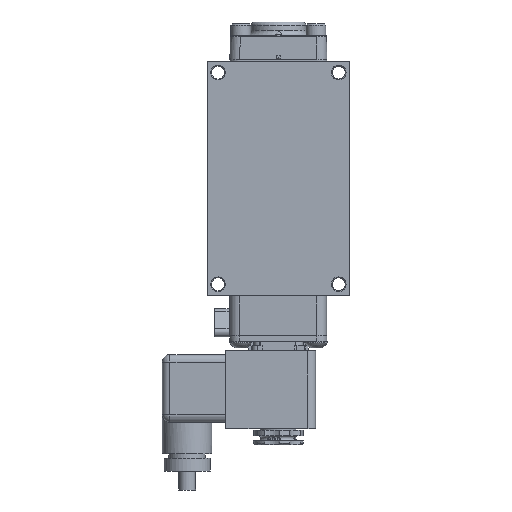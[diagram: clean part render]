
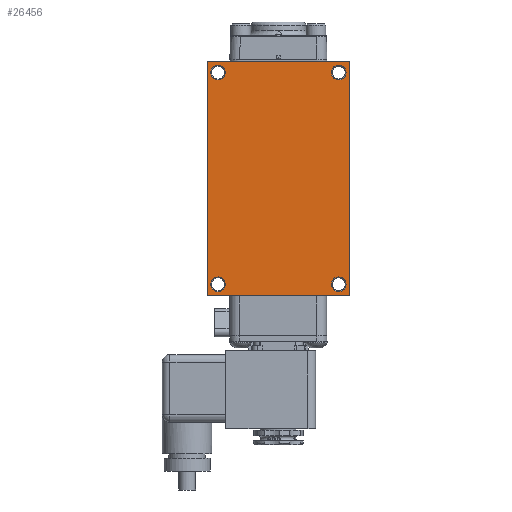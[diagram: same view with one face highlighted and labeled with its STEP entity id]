
A CAD part, front view. The second image highlights one B-rep face of the part: STEP entity #26456.
In plain terms, the highlighted planar face has unit normal (0, -1, 0).
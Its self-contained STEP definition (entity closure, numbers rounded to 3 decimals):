
#1449=LINE('',#46190,#3212);
#1450=LINE('',#46192,#3213);
#1451=LINE('',#46194,#3214);
#1452=LINE('',#46195,#3215);
#3212=VECTOR('',#35102,9.421);
#3213=VECTOR('',#35103,5.715);
#3214=VECTOR('',#35104,9.421);
#3215=VECTOR('',#35105,5.715);
#5012=PLANE('',#29079);
#5588=FACE_BOUND('',#8710,.T.);
#5589=FACE_BOUND('',#8711,.T.);
#5590=FACE_BOUND('',#8712,.T.);
#5591=FACE_BOUND('',#8713,.T.);
#6822=FACE_OUTER_BOUND('',#8709,.T.);
#8709=EDGE_LOOP('',(#21246,#21247,#21248,#21249));
#8710=EDGE_LOOP('',(#21250));
#8711=EDGE_LOOP('',(#21251));
#8712=EDGE_LOOP('',(#21252));
#8713=EDGE_LOOP('',(#21253));
#10361=CIRCLE('',#29068,0.296);
#10363=CIRCLE('',#29072,0.296);
#10365=CIRCLE('',#29076,0.296);
#10367=CIRCLE('',#29080,0.296);
#12255=VERTEX_POINT('',#46170);
#12257=VERTEX_POINT('',#46176);
#12259=VERTEX_POINT('',#46182);
#12261=VERTEX_POINT('',#46188);
#12262=VERTEX_POINT('',#46189);
#12263=VERTEX_POINT('',#46191);
#12264=VERTEX_POINT('',#46193);
#12265=VERTEX_POINT('',#46196);
#15419=EDGE_CURVE('',#12255,#12255,#10361,.T.);
#15421=EDGE_CURVE('',#12257,#12257,#10363,.T.);
#15423=EDGE_CURVE('',#12259,#12259,#10365,.T.);
#15425=EDGE_CURVE('',#12261,#12262,#1449,.T.);
#15426=EDGE_CURVE('',#12263,#12261,#1450,.T.);
#15427=EDGE_CURVE('',#12264,#12263,#1451,.T.);
#15428=EDGE_CURVE('',#12262,#12264,#1452,.T.);
#15429=EDGE_CURVE('',#12265,#12265,#10367,.T.);
#21246=ORIENTED_EDGE('',*,*,#15425,.F.);
#21247=ORIENTED_EDGE('',*,*,#15426,.F.);
#21248=ORIENTED_EDGE('',*,*,#15427,.F.);
#21249=ORIENTED_EDGE('',*,*,#15428,.F.);
#21250=ORIENTED_EDGE('',*,*,#15423,.F.);
#21251=ORIENTED_EDGE('',*,*,#15419,.F.);
#21252=ORIENTED_EDGE('',*,*,#15421,.F.);
#21253=ORIENTED_EDGE('',*,*,#15429,.F.);
#26456=ADVANCED_FACE('',(#6822,#5588,#5589,#5590,#5591),#5012,.F.);
#29068=AXIS2_PLACEMENT_3D('',#46171,#35078,#35079);
#29072=AXIS2_PLACEMENT_3D('',#46177,#35086,#35087);
#29076=AXIS2_PLACEMENT_3D('',#46183,#35094,#35095);
#29079=AXIS2_PLACEMENT_3D('',#46187,#35100,#35101);
#29080=AXIS2_PLACEMENT_3D('',#46197,#35106,#35107);
#35078=DIRECTION('center_axis',(0.,-1.,0.));
#35079=DIRECTION('ref_axis',(1.,0.,0.));
#35086=DIRECTION('center_axis',(0.,-1.,0.));
#35087=DIRECTION('ref_axis',(1.,0.,0.));
#35094=DIRECTION('center_axis',(0.,-1.,0.));
#35095=DIRECTION('ref_axis',(1.,0.,0.));
#35100=DIRECTION('center_axis',(0.,1.,0.));
#35101=DIRECTION('ref_axis',(0.,0.,1.));
#35102=DIRECTION('',(0.,0.,-1.));
#35103=DIRECTION('',(1.,0.,0.));
#35104=DIRECTION('',(0.,0.,1.));
#35105=DIRECTION('',(-1.,0.,0.));
#35106=DIRECTION('center_axis',(0.,-1.,0.));
#35107=DIRECTION('ref_axis',(1.,0.,0.));
#46170=CARTESIAN_POINT('',(2.125,-1.636,-4.247));
#46171=CARTESIAN_POINT('Origin',(2.421,-1.636,-4.247));
#46176=CARTESIAN_POINT('',(-2.717,-1.636,-4.247));
#46177=CARTESIAN_POINT('Origin',(-2.421,-1.636,-4.247));
#46182=CARTESIAN_POINT('',(-2.717,-1.636,4.247));
#46183=CARTESIAN_POINT('Origin',(-2.421,-1.636,4.247));
#46187=CARTESIAN_POINT('Origin',(0.,-1.636,0.));
#46188=CARTESIAN_POINT('',(2.858,-1.636,4.71));
#46189=CARTESIAN_POINT('',(2.858,-1.636,-4.71));
#46190=CARTESIAN_POINT('',(2.858,-1.636,-4.71));
#46191=CARTESIAN_POINT('',(-2.858,-1.636,4.71));
#46192=CARTESIAN_POINT('',(2.858,-1.636,4.71));
#46193=CARTESIAN_POINT('',(-2.858,-1.636,-4.71));
#46194=CARTESIAN_POINT('',(-2.858,-1.636,4.71));
#46195=CARTESIAN_POINT('',(-2.858,-1.636,-4.71));
#46196=CARTESIAN_POINT('',(2.125,-1.636,4.247));
#46197=CARTESIAN_POINT('Origin',(2.421,-1.636,4.247));
